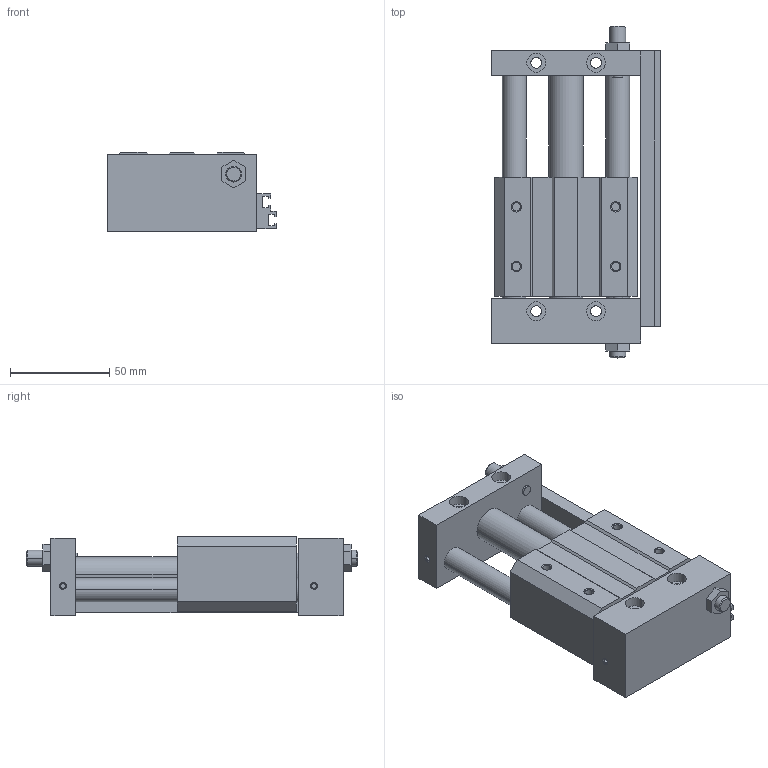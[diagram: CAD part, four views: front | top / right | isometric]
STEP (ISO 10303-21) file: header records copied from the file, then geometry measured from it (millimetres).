
FILE_DESCRIPTION((''),'2;1');
FILE_NAME('C:\Documents and Settings\Administrator\桌面\GYS\GYS15\GYSR15X50.stp','2012-03-05T10:51:58',('Administrator'),(''),'Autodesk Inventor 8','Autodesk Inventor 8','');
FILE_SCHEMA(('AUTOMOTIVE_DESIGN { 1 0 10303 214 1 1 1 1 }'));
Length unit declared in the file: millimetre
Products named in the file (3): GYSR15X50; GYS15X50; GYS15160X50
Assembly tree (2 placements, depth 2):
  GYSR15X50
    GYS15X50
    GYS15160X50
Bounding box: 85 x 167 x 40 mm (x, y, z)
Volume: 293960.4 mm3; surface area: 58065.4 mm2
Topology: 2 solids, 2 shells, 201 faces, 494 edges, 320 vertices
Faces by surface type: plane 107, cylinder 60, cone 28, bspline 6
Entity records: 6100 total; most frequent: CARTESIAN_POINT 1094, DIRECTION 1058, ORIENTED_EDGE 988, EDGE_CURVE 494, AXIS2_PLACEMENT_3D 364, VECTOR 330, LINE 330, VERTEX_POINT 320
